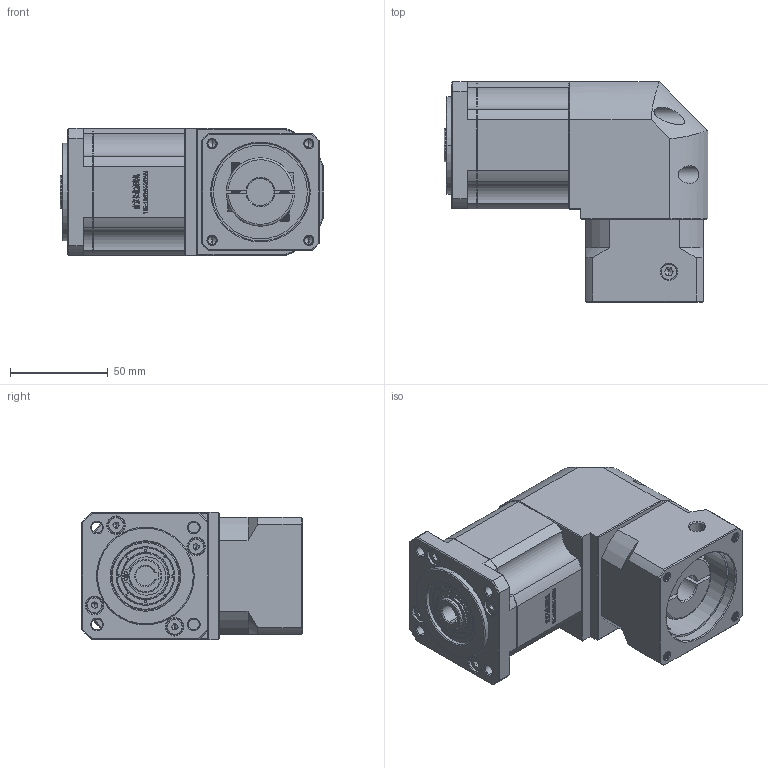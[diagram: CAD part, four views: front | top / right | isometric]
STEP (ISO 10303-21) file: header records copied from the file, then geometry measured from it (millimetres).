
FILE_DESCRIPTION (( 'STEP AP214' ), '1' );
FILE_NAME ('ZBR60-K10-L2-14-50-70-M5.STEP', '2022-04-19T08:56:07', ( '' ), ( 'Microsoft' ), 'SwSTEP 2.0', 'SolidWorks 2016', '' );
FILE_SCHEMA (( 'AUTOMOTIVE_DESIGN' ));
Length unit declared in the file: millimetre
Products named in the file (1): ZBR60-K10-L2-14-50-70-M5
Bounding box: 135 x 112.7 x 65 mm (x, y, z)
Volume: 578816.9 mm3; surface area: 80781.3 mm2
Topology: 5 solids, 5 shells, 2790 faces, 7539 edges, 4888 vertices
Faces by surface type: plane 1469, bspline 584, cylinder 393, cone 324, torus 20
Entity records: 149457 total; most frequent: CARTESIAN_POINT 52766, ORIENTED_EDGE 15022, DIRECTION 11477, EDGE_CURVE 7511, VECTOR 5007, LINE 5007, VERTEX_POINT 4888, AXIS2_PLACEMENT_3D 3235
